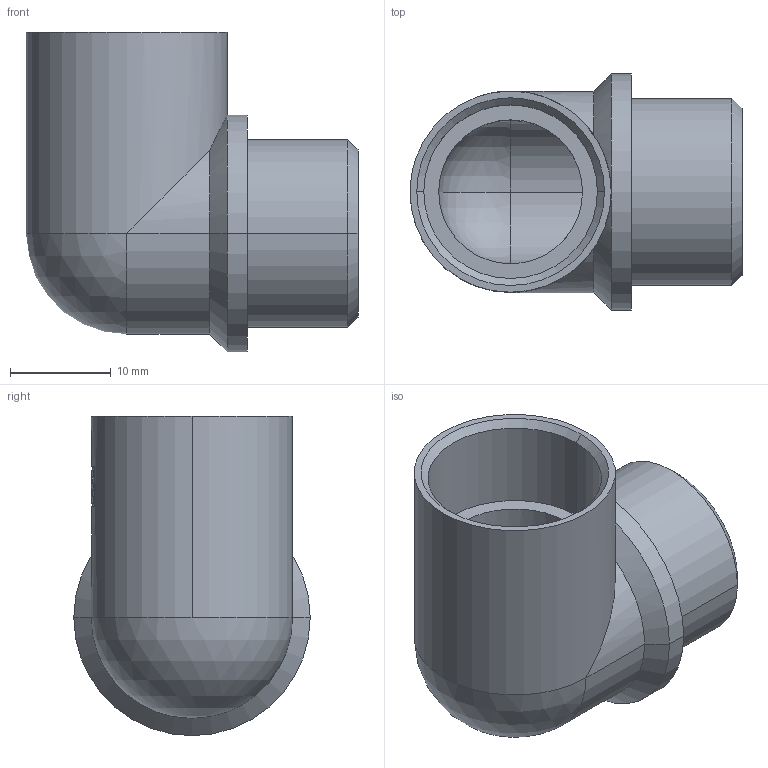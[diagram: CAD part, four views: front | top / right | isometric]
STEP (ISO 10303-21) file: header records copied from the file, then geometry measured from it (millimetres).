
FILE_DESCRIPTION (( 'STEP AP203' ), '1' );
FILE_NAME ('21.011 L.STEP', '2006-11-06T09:04:08', ( ' ' ), ( '' ), 'SwSTEP 2.0', 'SolidWorks 2005278', '' );
FILE_SCHEMA (( 'CONFIG_CONTROL_DESIGN' ));
Length unit declared in the file: millimetre
Products named in the file (1): 21.011 L
Bounding box: 33 x 23.5 x 31.75 mm (x, y, z)
Volume: 5545.7 mm3; surface area: 4979.6 mm2
Topology: 1 solids, 1 shells, 66 faces, 166 edges, 104 vertices
Faces by surface type: plane 38, cylinder 18, cone 7, sphere 3
Entity records: 2073 total; most frequent: CARTESIAN_POINT 434, DIRECTION 330, ORIENTED_EDGE 324, EDGE_CURVE 162, AXIS2_PLACEMENT_3D 127, VERTEX_POINT 103, VECTOR 76, LINE 76
